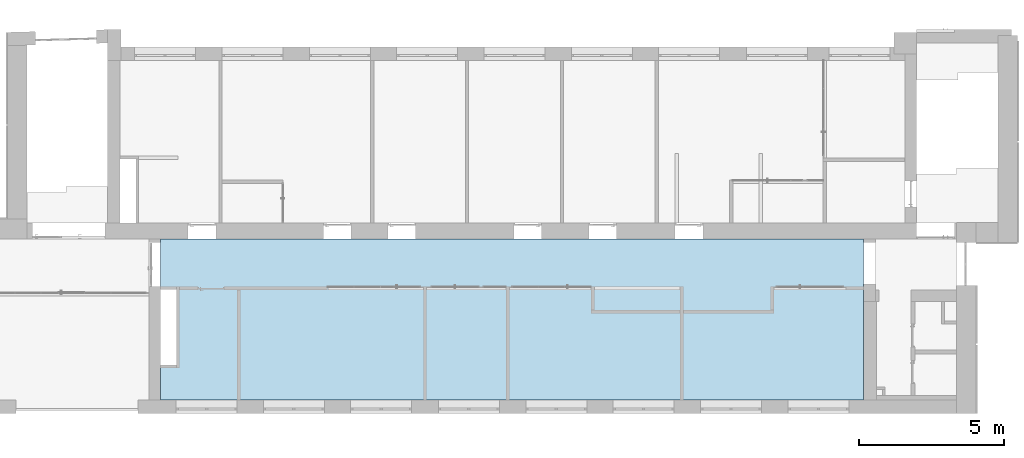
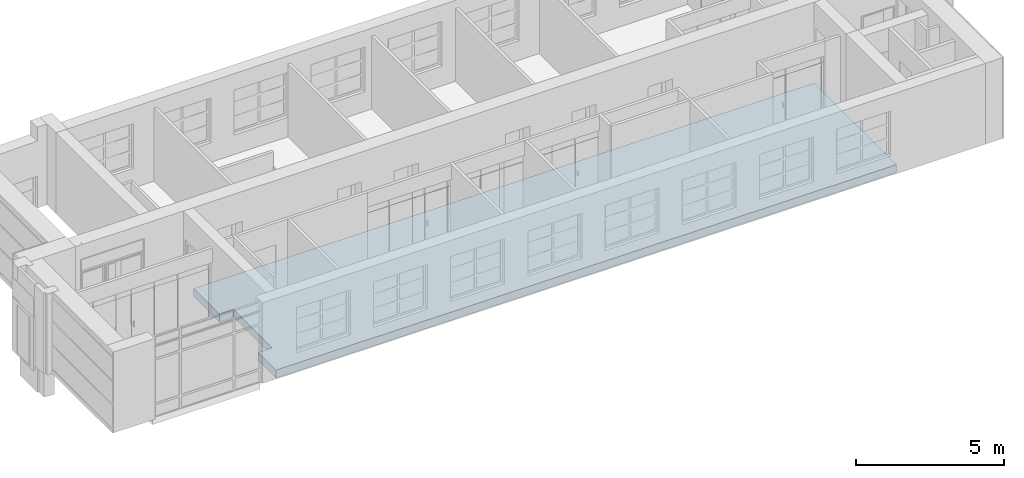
# One storey, part 27 of 73: 1 slab.
"""IFC2X3 building model written with IfcOpenShell, lengths in millimetres."""

from ifc_helpers import new_model, entity, si_unit, converted_unit, derived_unit, direction, frame, origin, place, context, subcontext, project, spatial, polyline, outline, extrude, material, layer, layer_set, layer_usage, element, save


model = new_model("IFC2X3")

# Units and contexts
model_context = context("Model", 3, precision=0.01, world=origin(), true_north=direction((6.12303176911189e-17, 1.0)))
body_context = subcontext(model_context, "Body", "Model", "MODEL_VIEW")
ifc_project = project(units=[si_unit("LENGTHUNIT", "METRE", prefix="MILLI"), si_unit("AREAUNIT", "SQUARE_METRE"), si_unit("VOLUMEUNIT", "CUBIC_METRE"), converted_unit("PLANEANGLEUNIT", "DEGREE", entity("IfcRatioMeasure", 0.0174532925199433), si_unit("PLANEANGLEUNIT", "RADIAN"), dimensions=[0, 0, 0, 0, 0, 0, 0]), si_unit("MASSUNIT", "GRAM", prefix="KILO"), derived_unit("MASSDENSITYUNIT", [(si_unit("MASSUNIT", "GRAM", prefix="KILO"), 1), (si_unit("LENGTHUNIT", "METRE"), -3)]), si_unit("TIMEUNIT", "SECOND"), si_unit("FREQUENCYUNIT", "HERTZ"), si_unit("THERMODYNAMICTEMPERATUREUNIT", "DEGREE_CELSIUS"), derived_unit("THERMALTRANSMITTANCEUNIT", [(si_unit("MASSUNIT", "GRAM", prefix="KILO"), 1), (si_unit("THERMODYNAMICTEMPERATUREUNIT", "KELVIN"), -1), (si_unit("TIMEUNIT", "SECOND"), -3)]), derived_unit("VOLUMETRICFLOWRATEUNIT", [(si_unit("LENGTHUNIT", "METRE"), 3), (si_unit("TIMEUNIT", "SECOND"), -1)]), si_unit("ELECTRICCURRENTUNIT", "AMPERE"), si_unit("ELECTRICVOLTAGEUNIT", "VOLT"), si_unit("POWERUNIT", "WATT"), si_unit("FORCEUNIT", "NEWTON", prefix="KILO"), si_unit("ILLUMINANCEUNIT", "LUX"), si_unit("LUMINOUSFLUXUNIT", "LUMEN"), si_unit("LUMINOUSINTENSITYUNIT", "CANDELA"), derived_unit("USERDEFINED", [(si_unit("MASSUNIT", "GRAM", prefix="KILO"), -1), (si_unit("LENGTHUNIT", "METRE"), -2), (si_unit("TIMEUNIT", "SECOND"), 3), (si_unit("LUMINOUSFLUXUNIT", "LUMEN"), 1)]), derived_unit("LINEARVELOCITYUNIT", [(si_unit("LENGTHUNIT", "METRE"), 1), (si_unit("TIMEUNIT", "SECOND"), -1)]), si_unit("PRESSUREUNIT", "PASCAL"), derived_unit("USERDEFINED", [(si_unit("LENGTHUNIT", "METRE"), -2), (si_unit("MASSUNIT", "GRAM", prefix="KILO"), 1), (si_unit("TIMEUNIT", "SECOND"), -2)])], contexts=[model_context])

# Site, building, storey
site_placement = place(None, frame((-151.875543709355, 2715.0, 0.0)))
site = spatial("IfcSite", under=ifc_project, at=site_placement, Name="Surface", CompositionType="ELEMENT")
building_placement = place(site_placement, origin())
building = spatial("IfcBuilding", under=site, at=building_placement, CompositionType="ELEMENT")
storey_placement = place(building_placement, frame((0.0, 0.0, 6730.43000000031)))
storey = spatial("IfcBuildingStorey", under=building, at=storey_placement, Name="3 korrus", CompositionType="ELEMENT", Elevation=6730.43000000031)

# Slab
ifc_material_1 = material(Name="Viimistlus")
ifc_layer_1 = layer(ifc_material_1, 20.0)
ifc_material_2 = material(Name="Betoon")
ifc_layer_2 = layer(ifc_material_2, 30.0)
ifc_material_3 = material(Name="Helisummutusvill")
ifc_layer_3 = layer(ifc_material_3, 30.0)
ifc_material_4 = material(Name="__Kergkruus")
ifc_layer_4 = layer(ifc_material_4, 30.0)
ifc_material_5 = material(Name="Betoon paneel")
ifc_layer_5 = layer(ifc_material_5, 220.0)
ifc_layer_set = layer_set([ifc_layer_1, ifc_layer_2, ifc_layer_3, ifc_layer_4, ifc_layer_5], Name="Floor:VL-1_vahelagi olemasolevas hoones")
ifc_layer_usage = layer_usage(ifc_layer_set, "AXIS3", "POSITIVE", 0.0)
slab_placement = place(storey_placement, origin())
element("IfcSlab", 1, at=slab_placement, inside=storey, material=ifc_layer_usage, Name="Floor:VL-1_vahelagi olemasolevas hoones", ObjectType="Floor:VL-1_vahelagi olemasolevas hoones", PredefinedType="FLOOR", context=body_context, shape_type="SweptSolid", body=[
    extrude(outline(polyline([(1164.92354542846, -6182.88090750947), (2910.12413828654, -6182.88090750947), (2910.12413828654, 17998.6427224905), (-2639.97122914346, 17998.6427224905), (-2639.97122914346, -6182.88090750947), (-1435.07645457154, -6182.88090750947), (-1435.07645457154, -5632.88090750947), (1164.92354542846, -5632.8809074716), (1164.92354542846, -6182.88090750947)])), frame((12545.3744369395, 3099.87586171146, 0.00203353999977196), z_axis=(0.0, 0.0, -1.0), x_axis=(0.0, 1.0, 0.0)), (0.0, 0.0, 1.0), 330.0),
])

save(model, "model.ifc")
